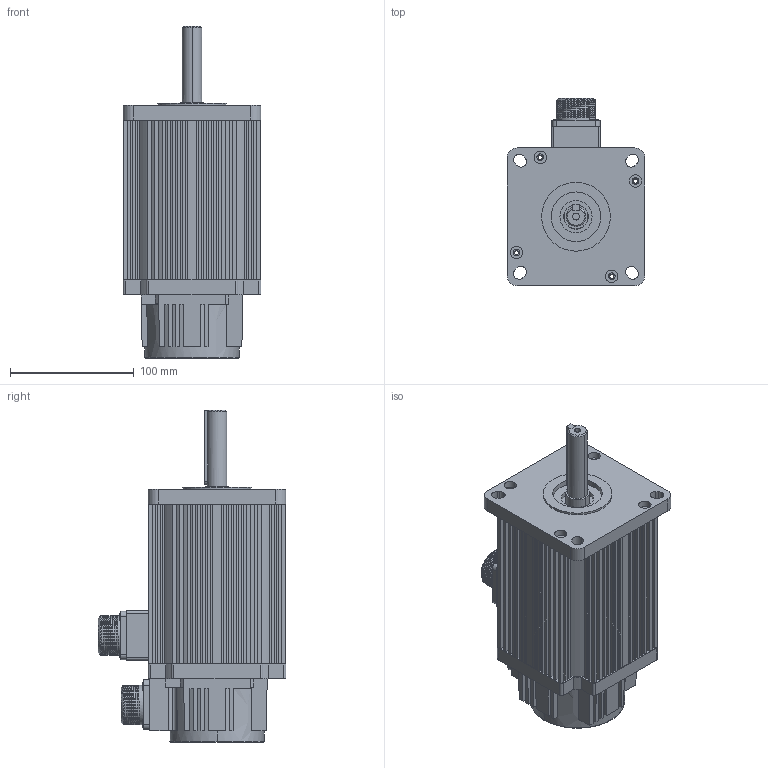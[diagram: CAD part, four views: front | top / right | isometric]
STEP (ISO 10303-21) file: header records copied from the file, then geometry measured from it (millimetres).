
FILE_DESCRIPTION (( 'STEP AP203' ), '1' );
FILE_NAME ('110-05030(S110-769).STEP', '2010-08-24T04:36:46', ( '' ), ( '' ), 'SwSTEP 2.0', 'SolidWorks 2011', '' );
FILE_SCHEMA (( 'CONFIG_CONTROL_DESIGN' ));
Length unit declared in the file: millimetre
Products named in the file (1): 110-05030(S110-769)
Bounding box: 111.2 x 151.6 x 268 mm (x, y, z)
Volume: 734332.7 mm3; surface area: 354645.6 mm2
Topology: 12 solids, 12 shells, 1030 faces, 2969 edges, 1928 vertices
Faces by surface type: plane 469, cylinder 384, bspline 145, cone 32
Entity records: 45305 total; most frequent: CARTESIAN_POINT 19117, ORIENTED_EDGE 5826, DIRECTION 5007, EDGE_CURVE 2913, VERTEX_POINT 1928, AXIS2_PLACEMENT_3D 1762, VECTOR 1483, LINE 1483
